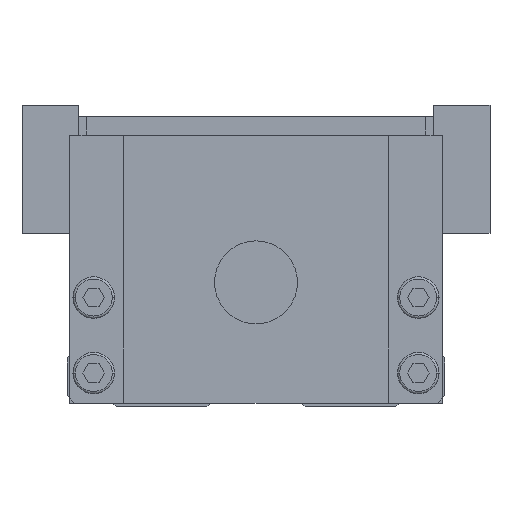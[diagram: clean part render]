
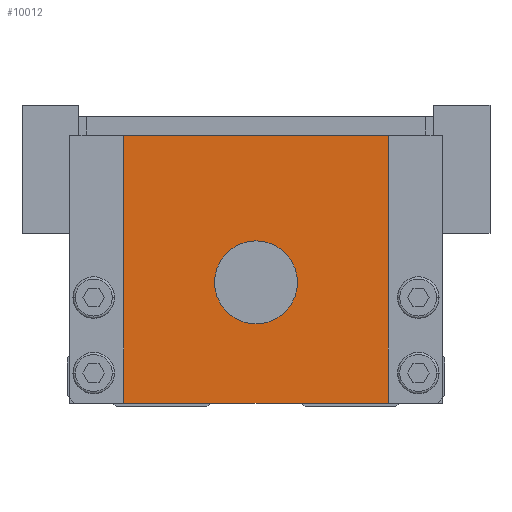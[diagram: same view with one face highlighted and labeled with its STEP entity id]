
A CAD part, front view. The second image highlights one B-rep face of the part: STEP entity #10012.
In plain terms, the highlighted planar face has unit normal (0, -1, 0).
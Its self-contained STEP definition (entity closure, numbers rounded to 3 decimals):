
#4270=EDGE_CURVE('',#8404,#5902,#12749,.T.);
#4606=EDGE_CURVE('',#10252,#7420,#13131,.T.);
#4680=VERTEX_POINT('',#13212);
#5902=VERTEX_POINT('',#14578);
#6292=VERTEX_POINT('',#15007);
#7420=VERTEX_POINT('',#16262);
#8218=EDGE_CURVE('',#5902,#7420,#17165,.T.);
#8404=VERTEX_POINT('',#17370);
#10012=ADVANCED_FACE('',(#19136,#19137),#19138,.F.);
#10252=VERTEX_POINT('',#19410);
#10580=EDGE_CURVE('',#4680,#6292,#19767,.T.);
#11722=EDGE_CURVE('',#10252,#8404,#21032,.T.);
#11952=EDGE_CURVE('',#6292,#4680,#21290,.T.);
#12749=LINE('',#22180,#22181);
#13131=LINE('',#22699,#22700);
#13212=CARTESIAN_POINT('',(-5.5,0.0,16.5));
#14578=CARTESIAN_POINT('',(17.5,0.0,0.5));
#15007=CARTESIAN_POINT('',(5.5,0.0,16.5));
#16262=CARTESIAN_POINT('',(-17.5,0.0,0.5));
#17165=LINE('',#28438,#28439);
#17370=CARTESIAN_POINT('',(17.5,0.0,36.0));
#19136=FACE_BOUND('',#31431,.T.);
#19137=FACE_OUTER_BOUND('',#31432,.T.);
#19138=PLANE('',#31433);
#19410=CARTESIAN_POINT('',(-17.5,0.0,36.0));
#19767=CIRCLE('',#32281,5.5);
#21032=LINE('',#34046,#34047);
#21290=CIRCLE('',#34412,5.5);
#22180=CARTESIAN_POINT('',(17.5,0.0,18.25));
#22181=VECTOR('',#35682,1.0);
#22699=CARTESIAN_POINT('',(-17.5,0.0,18.25));
#22700=VECTOR('',#36186,1.0);
#28438=CARTESIAN_POINT('',(0.0,0.0,0.5));
#28439=VECTOR('',#40809,1.0);
#31431=EDGE_LOOP('',(#42979,#42980));
#31432=EDGE_LOOP('',(#42981,#42982,#42983,#42984));
#31433=AXIS2_PLACEMENT_3D('',#42985,#42986,#42987);
#32281=AXIS2_PLACEMENT_3D('',#43684,#43685,#43686);
#34046=CARTESIAN_POINT('',(0.0,0.0,36.0));
#34047=VECTOR('',#45120,1.0);
#34412=AXIS2_PLACEMENT_3D('',#45416,#45417,#45418);
#35682=DIRECTION('',(0.0,0.0,-1.0));
#36186=DIRECTION('',(0.0,0.0,-1.0));
#40809=DIRECTION('',(-1.0,0.0,0.0));
#42979=ORIENTED_EDGE('',*,*,#11952,.T.);
#42980=ORIENTED_EDGE('',*,*,#10580,.T.);
#42981=ORIENTED_EDGE('',*,*,#4606,.T.);
#42982=ORIENTED_EDGE('',*,*,#8218,.F.);
#42983=ORIENTED_EDGE('',*,*,#4270,.F.);
#42984=ORIENTED_EDGE('',*,*,#11722,.F.);
#42985=CARTESIAN_POINT('',(0.0,0.0,18.25));
#42986=DIRECTION('',(0.0,1.0,0.0));
#42987=DIRECTION('',(0.0,0.0,1.0));
#43684=CARTESIAN_POINT('',(0.0,0.0,16.5));
#43685=DIRECTION('',(-0.0,1.0,0.0));
#43686=DIRECTION('',(1.0,0.0,0.0));
#45120=DIRECTION('',(1.0,0.0,0.0));
#45416=CARTESIAN_POINT('',(0.0,0.0,16.5));
#45417=DIRECTION('',(-0.0,1.0,0.0));
#45418=DIRECTION('',(1.0,0.0,0.0));
